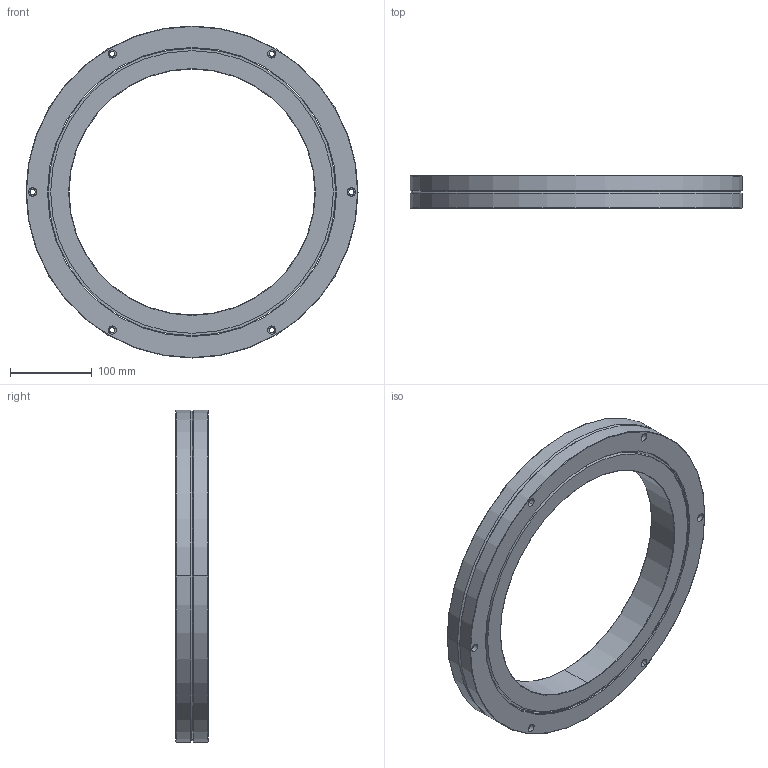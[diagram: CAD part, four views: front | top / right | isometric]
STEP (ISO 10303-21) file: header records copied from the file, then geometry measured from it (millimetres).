
FILE_DESCRIPTION((''),'2;1');
FILE_NAME('RB30040','2015-08-27T',('Administrator'),(''),'PRO/ENGINEER BY PARAMETRIC TECHNOLOGY CORPORATION, 2010180','PRO/ENGINEER BY PARAMETRIC TECHNOLOGY CORPORATION, 2010180','');
FILE_SCHEMA(('AUTOMOTIVE_DESIGN_CC2 { 1 2 10303 214 -1 1 5 2 }'));
Length unit declared in the file: millimetre
Products named in the file (1): RB30040
Bounding box: 405 x 40 x 405 mm (x, y, z)
Volume: 1990967.2 mm3; surface area: 336444.9 mm2
Topology: 2 solids, 2 shells, 104 faces, 220 edges, 138 vertices
Faces by surface type: cylinder 62, plane 22, cone 12, torus 8
Entity records: 2965 total; most frequent: DIRECTION 574, CARTESIAN_POINT 462, ORIENTED_EDGE 440, AXIS2_PLACEMENT_3D 250, EDGE_CURVE 220, CIRCLE 146, VERTEX_POINT 138, EDGE_LOOP 138
